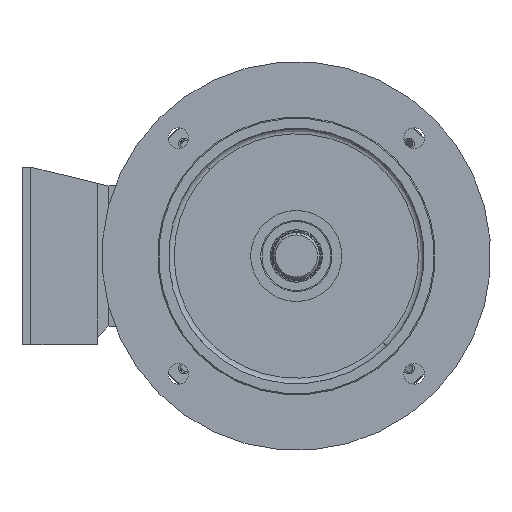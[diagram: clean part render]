
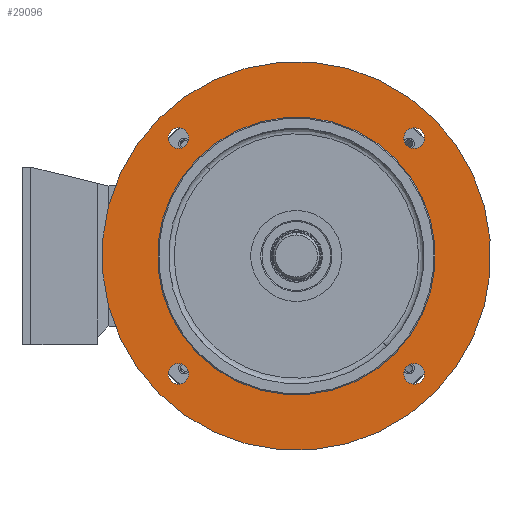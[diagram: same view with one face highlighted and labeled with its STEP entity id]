
A CAD part, left-side view. The second image highlights one B-rep face of the part: STEP entity #29096.
In plain terms, the highlighted planar face has unit normal (-1, 0, 0).
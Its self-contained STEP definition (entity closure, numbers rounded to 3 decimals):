
#3878 = CARTESIAN_POINT ( 'NONE',  ( -28.733, 0., -125. ) ) ;
#3879 = CARTESIAN_POINT ( 'NONE',  ( -28.733, 0., 140.75 ) ) ;
#3883 = CARTESIAN_POINT ( 'NONE',  ( -28.733, -150., 9.25 ) ) ;
#3885 = CARTESIAN_POINT ( 'NONE',  ( -28.733, 0., -140.75 ) ) ;
#3934 = CARTESIAN_POINT ( 'NONE',  ( -28.733, 0., 125. ) ) ;
#3935 = CARTESIAN_POINT ( 'NONE',  ( -28.733, 0., 159.25 ) ) ;
#3936 = CARTESIAN_POINT ( 'NONE',  ( -28.733, 150., 9.25 ) ) ;
#3937 = CARTESIAN_POINT ( 'NONE',  ( -28.733, 150., -9.25 ) ) ;
#3938 = CARTESIAN_POINT ( 'NONE',  ( -28.733, -150., -9.25 ) ) ;
#3941 = CARTESIAN_POINT ( 'NONE',  ( -28.733, 0., 175. ) ) ;
#3942 = CARTESIAN_POINT ( 'NONE',  ( -28.733, 0., -175. ) ) ;
#5618 = AXIS2_PLACEMENT_3D ( 'NONE', #9101, #9102, #9103 ) ;
#5620 = AXIS2_PLACEMENT_3D ( 'NONE', #9104, #9105, #9106 ) ;
#5622 = AXIS2_PLACEMENT_3D ( 'NONE', #9107, #9108, #9109 ) ;
#5624 = AXIS2_PLACEMENT_3D ( 'NONE', #9110, #9111, #9112 ) ;
#5627 = AXIS2_PLACEMENT_3D ( 'NONE', #9113, #9114, #9115 ) ;
#5629 = AXIS2_PLACEMENT_3D ( 'NONE', #9117, #9118, #9119 ) ;
#7870 = CIRCLE ( 'NONE', #5618, 125. ) ;
#7871 = CIRCLE ( 'NONE', #5620, 175. ) ;
#7872 = CIRCLE ( 'NONE', #5622, 9.25 ) ;
#7873 = CIRCLE ( 'NONE', #5624, 9.25 ) ;
#7874 = CIRCLE ( 'NONE', #5627, 9.25 ) ;
#7875 = CIRCLE ( 'NONE', #5629, 9.25 ) ;
#9101 = CARTESIAN_POINT ( 'NONE',  ( -28.733, 0., 0. ) ) ;
#9102 = DIRECTION ( 'NONE',  ( -1., 0., 0. ) ) ;
#9103 = DIRECTION ( 'NONE',  ( 0., 0., 1. ) ) ;
#9104 = CARTESIAN_POINT ( 'NONE',  ( -28.733, 0., 0. ) ) ;
#9105 = DIRECTION ( 'NONE',  ( 1., 0., 0. ) ) ;
#9106 = DIRECTION ( 'NONE',  ( 0., 0., 1. ) ) ;
#9107 = CARTESIAN_POINT ( 'NONE',  ( -28.733, 0., 150. ) ) ;
#9108 = DIRECTION ( 'NONE',  ( -1., 0., 0. ) ) ;
#9109 = DIRECTION ( 'NONE',  ( 0., 0., 1. ) ) ;
#9110 = CARTESIAN_POINT ( 'NONE',  ( -28.733, 150., 0. ) ) ;
#9111 = DIRECTION ( 'NONE',  ( -1., 0., 0. ) ) ;
#9112 = DIRECTION ( 'NONE',  ( 0., 0., 1. ) ) ;
#9113 = CARTESIAN_POINT ( 'NONE',  ( -28.733, -150., 0. ) ) ;
#9114 = DIRECTION ( 'NONE',  ( -1., 0., 0. ) ) ;
#9115 = DIRECTION ( 'NONE',  ( 0., 0., 1. ) ) ;
#9117 = CARTESIAN_POINT ( 'NONE',  ( -28.733, 0., -150. ) ) ;
#9118 = DIRECTION ( 'NONE',  ( -1., 0., 0. ) ) ;
#9119 = DIRECTION ( 'NONE',  ( 0., 0., 1. ) ) ;
#12074 = ORIENTED_EDGE ( 'NONE', *, *, #21269, .F. ) ;
#12077 = ORIENTED_EDGE ( 'NONE', *, *, #14274, .F. ) ;
#12079 = ORIENTED_EDGE ( 'NONE', *, *, #21267, .F. ) ;
#12081 = ORIENTED_EDGE ( 'NONE', *, *, #14278, .F. ) ;
#12083 = ORIENTED_EDGE ( 'NONE', *, *, #21264, .F. ) ;
#12085 = ORIENTED_EDGE ( 'NONE', *, *, #14282, .F. ) ;
#12087 = ORIENTED_EDGE ( 'NONE', *, *, #21262, .F. ) ;
#12089 = ORIENTED_EDGE ( 'NONE', *, *, #14286, .F. ) ;
#12091 = ORIENTED_EDGE ( 'NONE', *, *, #21260, .F. ) ;
#12093 = ORIENTED_EDGE ( 'NONE', *, *, #14290, .F. ) ;
#12095 = ORIENTED_EDGE ( 'NONE', *, *, #14292, .F. ) ;
#12097 = ORIENTED_EDGE ( 'NONE', *, *, #21257, .F. ) ;
#14274 = EDGE_CURVE ( 'NONE', #22094, #19806, #25980, .T. ) ;
#14278 = EDGE_CURVE ( 'NONE', #19859, #19804, #25986, .T. ) ;
#14282 = EDGE_CURVE ( 'NONE', #19858, #19857, #25992, .T. ) ;
#14286 = EDGE_CURVE ( 'NONE', #19800, #19856, #25998, .T. ) ;
#14290 = EDGE_CURVE ( 'NONE', #19863, #19862, #26005, .T. ) ;
#14292 = EDGE_CURVE ( 'NONE', #19855, #19799, #26004, .T. ) ;
#17358 = CARTESIAN_POINT ( 'NONE',  ( -28.733, 0., -159.25 ) ) ;
#19799 = VERTEX_POINT ( 'NONE', #3878 ) ;
#19800 = VERTEX_POINT ( 'NONE', #3879 ) ;
#19804 = VERTEX_POINT ( 'NONE', #3883 ) ;
#19806 = VERTEX_POINT ( 'NONE', #3885 ) ;
#19855 = VERTEX_POINT ( 'NONE', #3934 ) ;
#19856 = VERTEX_POINT ( 'NONE', #3935 ) ;
#19857 = VERTEX_POINT ( 'NONE', #3936 ) ;
#19858 = VERTEX_POINT ( 'NONE', #3937 ) ;
#19859 = VERTEX_POINT ( 'NONE', #3938 ) ;
#19862 = VERTEX_POINT ( 'NONE', #3941 ) ;
#19863 = VERTEX_POINT ( 'NONE', #3942 ) ;
#21257 = EDGE_CURVE ( 'NONE', #19799, #19855, #7870, .T. ) ;
#21260 = EDGE_CURVE ( 'NONE', #19862, #19863, #7871, .T. ) ;
#21262 = EDGE_CURVE ( 'NONE', #19856, #19800, #7872, .T. ) ;
#21264 = EDGE_CURVE ( 'NONE', #19857, #19858, #7873, .T. ) ;
#21267 = EDGE_CURVE ( 'NONE', #19804, #19859, #7874, .T. ) ;
#21269 = EDGE_CURVE ( 'NONE', #19806, #22094, #7875, .T. ) ;
#22094 = VERTEX_POINT ( 'NONE', #17358 ) ;
#25167 = AXIS2_PLACEMENT_3D ( 'NONE', #43288, #43289, #43291 ) ;
#25169 = AXIS2_PLACEMENT_3D ( 'NONE', #43313, #43315, #43317 ) ;
#25171 = AXIS2_PLACEMENT_3D ( 'NONE', #43339, #43341, #43343 ) ;
#25173 = AXIS2_PLACEMENT_3D ( 'NONE', #43364, #43366, #43368 ) ;
#25175 = AXIS2_PLACEMENT_3D ( 'NONE', #43386, #43388, #43390 ) ;
#25176 = AXIS2_PLACEMENT_3D ( 'NONE', #43401, #43403, #43405 ) ;
#25980 = CIRCLE ( 'NONE', #25167, 9.25 ) ;
#25986 = CIRCLE ( 'NONE', #25169, 9.25 ) ;
#25992 = CIRCLE ( 'NONE', #25171, 9.25 ) ;
#25998 = CIRCLE ( 'NONE', #25173, 9.25 ) ;
#26004 = CIRCLE ( 'NONE', #25176, 125. ) ;
#26005 = CIRCLE ( 'NONE', #25175, 175. ) ;
#29096 = ADVANCED_FACE ( 'NONE', ( #55331, #55327, #55322, #55330, #55329, #55332 ), #60367, .F. ) ;
#43288 = CARTESIAN_POINT ( 'NONE',  ( -28.733, 0., -150. ) ) ;
#43289 = DIRECTION ( 'NONE',  ( -1., 0., 0. ) ) ;
#43291 = DIRECTION ( 'NONE',  ( 0., 0., 1. ) ) ;
#43313 = CARTESIAN_POINT ( 'NONE',  ( -28.733, -150., 0. ) ) ;
#43315 = DIRECTION ( 'NONE',  ( -1., 0., 0. ) ) ;
#43317 = DIRECTION ( 'NONE',  ( 0., 0., 1. ) ) ;
#43339 = CARTESIAN_POINT ( 'NONE',  ( -28.733, 150., 0. ) ) ;
#43341 = DIRECTION ( 'NONE',  ( -1., 0., 0. ) ) ;
#43343 = DIRECTION ( 'NONE',  ( 0., 0., 1. ) ) ;
#43364 = CARTESIAN_POINT ( 'NONE',  ( -28.733, 0., 150. ) ) ;
#43366 = DIRECTION ( 'NONE',  ( -1., 0., 0. ) ) ;
#43368 = DIRECTION ( 'NONE',  ( 0., 0., 1. ) ) ;
#43386 = CARTESIAN_POINT ( 'NONE',  ( -28.733, 0., 0. ) ) ;
#43388 = DIRECTION ( 'NONE',  ( 1., 0., 0. ) ) ;
#43390 = DIRECTION ( 'NONE',  ( 0., 0., 1. ) ) ;
#43401 = CARTESIAN_POINT ( 'NONE',  ( -28.733, 0., 0. ) ) ;
#43403 = DIRECTION ( 'NONE',  ( -1., 0., 0. ) ) ;
#43405 = DIRECTION ( 'NONE',  ( 0., 0., 1. ) ) ;
#44687 = EDGE_LOOP ( 'NONE', ( #12095, #12097 ) ) ;
#44688 = EDGE_LOOP ( 'NONE', ( #12074, #12077 ) ) ;
#44691 = EDGE_LOOP ( 'NONE', ( #12087, #12089 ) ) ;
#55322 = FACE_BOUND ( 'NONE', #66412, .T. ) ;
#55327 = FACE_BOUND ( 'NONE', #66426, .T. ) ;
#55329 = FACE_OUTER_BOUND ( 'NONE', #66459, .T. ) ;
#55330 = FACE_BOUND ( 'NONE', #44691, .T. ) ;
#55331 = FACE_BOUND ( 'NONE', #44688, .T. ) ;
#55332 = FACE_BOUND ( 'NONE', #44687, .T. ) ;
#56094 = AXIS2_PLACEMENT_3D ( 'NONE', #60369, #60351, #60370 ) ;
#60351 = DIRECTION ( 'NONE',  ( 1., 0., 0. ) ) ;
#60367 = PLANE ( 'NONE',  #56094 ) ;
#60369 = CARTESIAN_POINT ( 'NONE',  ( -28.733, 125., 0. ) ) ;
#60370 = DIRECTION ( 'NONE',  ( 0., 0., -1. ) ) ;
#66412 = EDGE_LOOP ( 'NONE', ( #12083, #12085 ) ) ;
#66426 = EDGE_LOOP ( 'NONE', ( #12079, #12081 ) ) ;
#66459 = EDGE_LOOP ( 'NONE', ( #12091, #12093 ) ) ;
